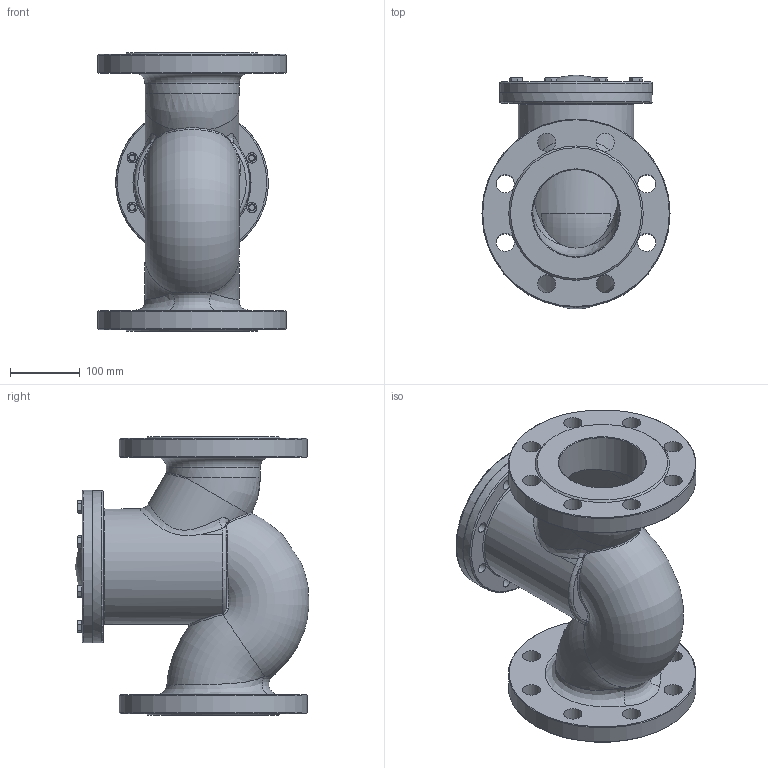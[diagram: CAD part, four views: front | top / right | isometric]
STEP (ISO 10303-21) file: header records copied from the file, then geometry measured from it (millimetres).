
FILE_DESCRIPTION(('STEP AP214'), '1');
FILE_NAME('VCR3131-F 孰囡囗 钺疣蝽 DN.ru 捏125 畜40', '', ('UNSPECIFIED'), ('UNSPECIFIED'), 'C3D Converter', 'C3D Toolkit', '');
FILE_SCHEMA(('AUTOMOTIVE_DESIGN { 1 0 10303 214 3 1 1}'));
Length unit declared in the file: millimetre
Products named in the file (1): VCR3131-F
Bounding box: 270 x 335.78 x 400 mm (x, y, z)
Volume: 8031415.1 mm3; surface area: 799203 mm2
Topology: 1 solids, 1 shells, 383 faces, 900 edges, 558 vertices
Faces by surface type: plane 178, cylinder 72, cone 64, bspline 55, torus 13, sphere 1
Full cylindrical faces by diameter (mm): 10 x8, 14.738 x16, 15 x1, 16 x8, 26 x16, 125 x2, 135 x1, 165.635 x1, 218.836 x2, 270 x2
Entity records: 24892 total; most frequent: CARTESIAN_POINT 15231, ORIENTED_EDGE 1632, DIRECTION 1523, EDGE_CURVE 816, AXIS2_PLACEMENT_3D 638, VERTEX_POINT 556, EDGE_LOOP 550, FACE_BOUND 440
